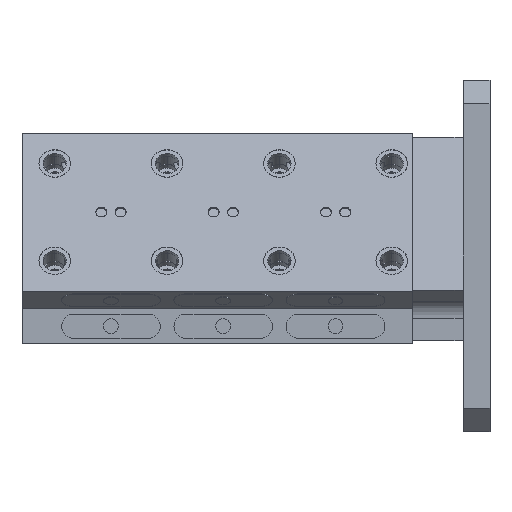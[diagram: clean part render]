
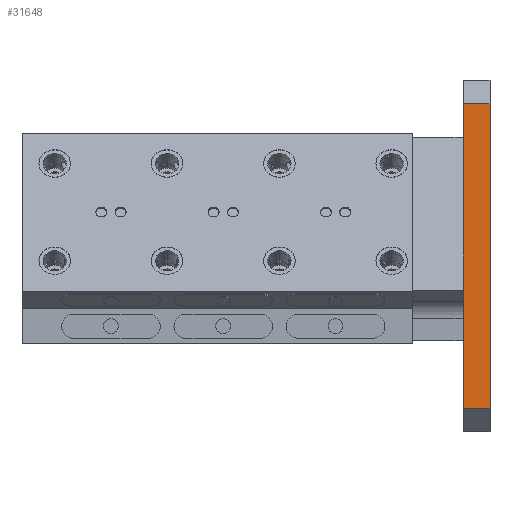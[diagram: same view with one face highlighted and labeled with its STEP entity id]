
A CAD part, left-side view. The second image highlights one B-rep face of the part: STEP entity #31648.
In plain terms, the highlighted planar face has unit normal (-1, 0, 0).
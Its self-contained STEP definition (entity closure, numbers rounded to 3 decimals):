
#92 = LINE ( 'NONE', #5540, #10570 ) ;
#530 = ORIENTED_EDGE ( 'NONE', *, *, #30389, .T. ) ;
#1898 = VERTEX_POINT ( 'NONE', #9085 ) ;
#2788 = LINE ( 'NONE', #5614, #22085 ) ;
#3874 = CARTESIAN_POINT ( 'NONE',  ( -150., 0., -130. ) ) ;
#4226 = CARTESIAN_POINT ( 'NONE',  ( -150., 23., 150. ) ) ;
#5118 = VECTOR ( 'NONE', #12814, 1000. ) ;
#5540 = CARTESIAN_POINT ( 'NONE',  ( -150., 23., 130. ) ) ;
#5614 = CARTESIAN_POINT ( 'NONE',  ( -150., 0., 150. ) ) ;
#7033 = VERTEX_POINT ( 'NONE', #11725 ) ;
#8565 = EDGE_CURVE ( 'NONE', #7033, #30349, #92, .T. ) ;
#9085 = CARTESIAN_POINT ( 'NONE',  ( -150., 23., -130. ) ) ;
#9613 = VERTEX_POINT ( 'NONE', #3874 ) ;
#9776 = ORIENTED_EDGE ( 'NONE', *, *, #17100, .F. ) ;
#10570 = VECTOR ( 'NONE', #34221, 1000. ) ;
#11725 = CARTESIAN_POINT ( 'NONE',  ( -150., 0., 130. ) ) ;
#12814 = DIRECTION ( 'NONE',  ( 0., 0., 1. ) ) ;
#14959 = CARTESIAN_POINT ( 'NONE',  ( -150., 23., 130. ) ) ;
#15147 = DIRECTION ( 'NONE',  ( 0., 0., -1. ) ) ;
#17100 = EDGE_CURVE ( 'NONE', #1898, #30349, #44328, .T. ) ;
#17995 = EDGE_CURVE ( 'NONE', #9613, #7033, #2788, .T. ) ;
#21938 = DIRECTION ( 'NONE',  ( 0., -1., 0. ) ) ;
#22085 = VECTOR ( 'NONE', #26635, 1000. ) ;
#25430 = ORIENTED_EDGE ( 'NONE', *, *, #17995, .T. ) ;
#25682 = PLANE ( 'NONE',  #39225 ) ;
#26635 = DIRECTION ( 'NONE',  ( 0., 0., 1. ) ) ;
#28374 = VECTOR ( 'NONE', #21938, 1000. ) ;
#29229 = CARTESIAN_POINT ( 'NONE',  ( -150., 23., -130. ) ) ;
#30349 = VERTEX_POINT ( 'NONE', #14959 ) ;
#30389 = EDGE_CURVE ( 'NONE', #1898, #9613, #37214, .T. ) ;
#31648 = ADVANCED_FACE ( 'NONE', ( #45285 ), #25682, .F. ) ;
#32768 = DIRECTION ( 'NONE',  ( 1., 0., 0. ) ) ;
#34221 = DIRECTION ( 'NONE',  ( 0., 1., 0. ) ) ;
#35146 = EDGE_LOOP ( 'NONE', ( #9776, #530, #25430, #37563 ) ) ;
#37214 = LINE ( 'NONE', #29229, #28374 ) ;
#37563 = ORIENTED_EDGE ( 'NONE', *, *, #8565, .T. ) ;
#39225 = AXIS2_PLACEMENT_3D ( 'NONE', #4226, #32768, #15147 ) ;
#44291 = CARTESIAN_POINT ( 'NONE',  ( -150., 23., 150. ) ) ;
#44328 = LINE ( 'NONE', #44291, #5118 ) ;
#45285 = FACE_OUTER_BOUND ( 'NONE', #35146, .T. ) ;
